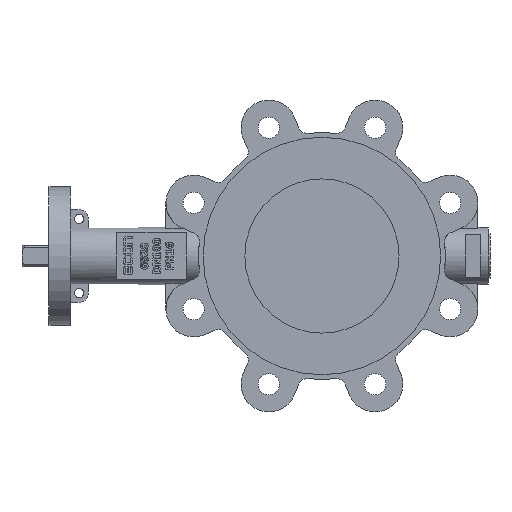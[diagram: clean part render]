
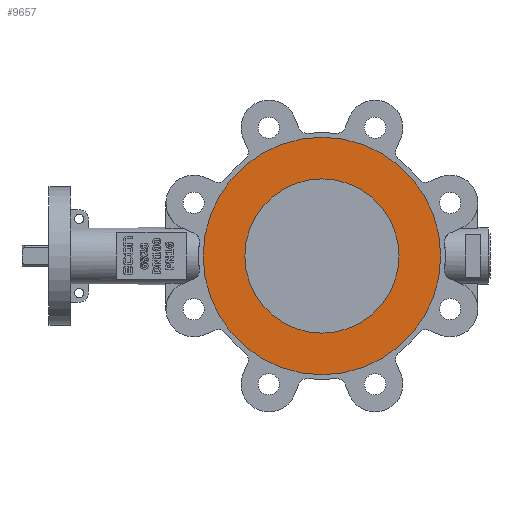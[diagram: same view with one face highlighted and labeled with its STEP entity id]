
A CAD part, left-side view. The second image highlights one B-rep face of the part: STEP entity #9657.
In plain terms, the highlighted planar face has unit normal (-1, 0, 0).
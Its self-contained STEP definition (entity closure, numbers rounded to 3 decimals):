
#232=FACE_BOUND('',#1833,.T.);
#772=PLANE('',#10271);
#1263=FACE_OUTER_BOUND('',#1832,.T.);
#1832=EDGE_LOOP('',(#8570));
#1833=EDGE_LOOP('',(#8571));
#3699=CIRCLE('',#10260,50.);
#3704=CIRCLE('',#10272,77.);
#4582=VERTEX_POINT('',#17169);
#4587=VERTEX_POINT('',#17189);
#5908=EDGE_CURVE('',#4582,#4582,#3699,.T.);
#5916=EDGE_CURVE('',#4587,#4587,#3704,.T.);
#8570=ORIENTED_EDGE('',*,*,#5916,.T.);
#8571=ORIENTED_EDGE('',*,*,#5908,.T.);
#9657=ADVANCED_FACE('',(#1263,#232),#772,.F.);
#10260=AXIS2_PLACEMENT_3D('',#17170,#12251,#12252);
#10271=AXIS2_PLACEMENT_3D('',#17188,#12276,#12277);
#10272=AXIS2_PLACEMENT_3D('',#17190,#12278,#12279);
#12251=DIRECTION('center_axis',(1.,0.,0.));
#12252=DIRECTION('ref_axis',(0.,0.,-1.));
#12276=DIRECTION('center_axis',(1.,0.,0.));
#12277=DIRECTION('ref_axis',(0.,0.,-1.));
#12278=DIRECTION('center_axis',(-1.,0.,0.));
#12279=DIRECTION('ref_axis',(0.,-1.,0.));
#17169=CARTESIAN_POINT('',(-26.674,-47.501,50.));
#17170=CARTESIAN_POINT('Origin',(-26.674,-47.501,0.));
#17188=CARTESIAN_POINT('Origin',(-26.674,-47.501,0.));
#17189=CARTESIAN_POINT('',(-26.674,29.499,0.));
#17190=CARTESIAN_POINT('Origin',(-26.674,-47.501,0.));
